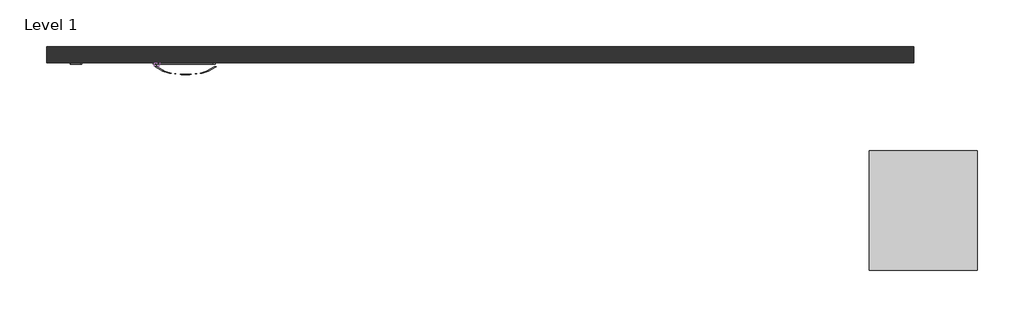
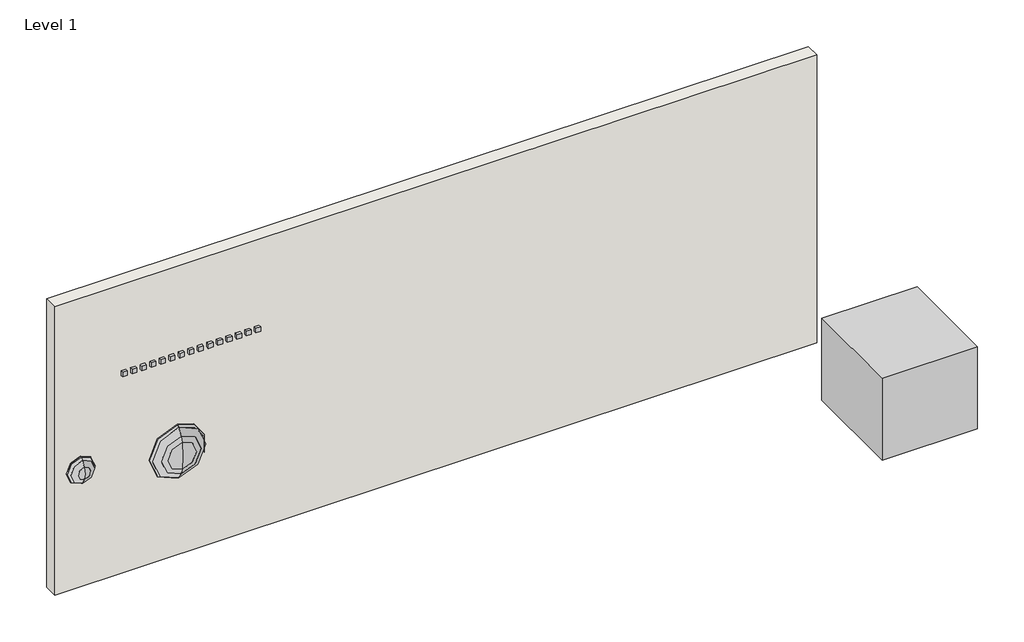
# One storey, incomplete: 3 furniture elements, 1 proxy, 1 wall.
"""IFC4 building model written with IfcOpenShell, lengths in millimetres."""

from ifc_helpers import new_model, si_unit, origin, origin_with_axes, place, context, project, spatial, polyline, outline, extrude, transform, mapped, element, save
from components import generic_models_1_generic_models_1_e51c70c9, convex_circle_large_convex_circle_large_e409688c, convex_circle_small_convex_circle_small_b8fd611a, furniture_1_furniture_1_dc6bc50a

model = new_model("IFC4")

# Units and contexts
model_context = context("Model", 3, world=origin())
ifc_project = project(units=[si_unit("LENGTHUNIT", "METRE", prefix="MILLI")], contexts=[model_context])

# Site, building, storey
site = spatial("IfcSite", under=ifc_project)
building = spatial("IfcBuilding", under=site)
storey = spatial("IfcBuildingStorey", under=building, Name="Level 1", Elevation=0.0)

# Proxy
placement = place(None, origin())
generic_models_1_generic_models_1_shape = generic_models_1_generic_models_1_e51c70c9(model_context)
element("IfcBuildingElementProxy", 1, Name="Generic Models 1 : Generic Models 1", ObjectType="Generic Models 1 : Generic Models 1", at=placement, inside=storey, context=model_context, shape_type="MappedRepresentation", body=[
    mapped(generic_models_1_generic_models_1_shape, transform((-783.0356853, 2478.7498298, 133.6044505), x_axis=(1.0, 0.0, 0.0), y_axis=(0.0, 1.0, 0.0), z_axis=(0.0, 0.0, 1.0))),
])

# Furniture
convex_circle_large_convex_circle_large_shape = convex_circle_large_convex_circle_large_e409688c(model_context)
element("IfcFurniture", 2, ObjectType="Convex Circle Large : Convex Circle Large", at=placement, inside=storey, context=model_context, shape_type="MappedRepresentation", body=[
    mapped(convex_circle_large_convex_circle_large_shape, transform((1282.4734825, -75.0, 1381.0472254), x_axis=(1.0, 0.0, 0.0), y_axis=(0.0, 0.0, 1.0), z_axis=(0.0, -1.0, 0.0))),
])
convex_circle_small_convex_circle_small_shape = convex_circle_small_convex_circle_small_b8fd611a(model_context)
element("IfcFurniture", 3, ObjectType="Convex Circle Small : Convex Circle Small", at=placement, inside=storey, context=model_context, shape_type="MappedRepresentation", body=[
    mapped(convex_circle_small_convex_circle_small_shape, transform((265.3637405, -75.0, 1381.0472254), x_axis=(1.0, 0.0, 0.0), y_axis=(0.0, 0.0, 1.0), z_axis=(0.0, -1.0, 0.0))),
])
furniture_1_furniture_1_shape = furniture_1_furniture_1_dc6bc50a(model_context)
element("IfcFurniture", 4, ObjectType="Furniture 1 : Furniture 1", at=placement, inside=storey, context=model_context, shape_type="MappedRepresentation", body=[
    mapped(furniture_1_furniture_1_shape, transform((258.6479081, 232.7368632, 0.0), x_axis=(1.0, 0.0, 0.0), y_axis=(0.0, 1.0, 0.0), z_axis=(0.0, 0.0, 1.0))),
])

# Wall
element("IfcWall", 5, ObjectType="Generic - 150", at=placement, inside=storey, context=model_context, shape_type="SweptSolid", body=[
    extrude(outline(polyline([(8000.0, -75.0), (0.0, -75.0), (0.0, 75.0), (8000.0, 75.0), (8000.0, -75.0)])), origin_with_axes(), (0.0, 0.0, 1.0), 3200.0),
])

save(model, "model.ifc")
